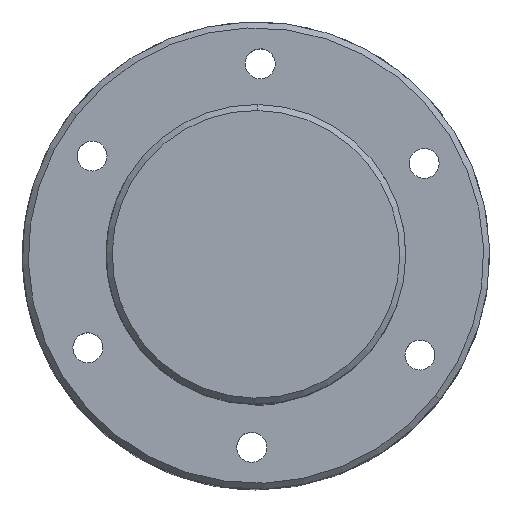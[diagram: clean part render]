
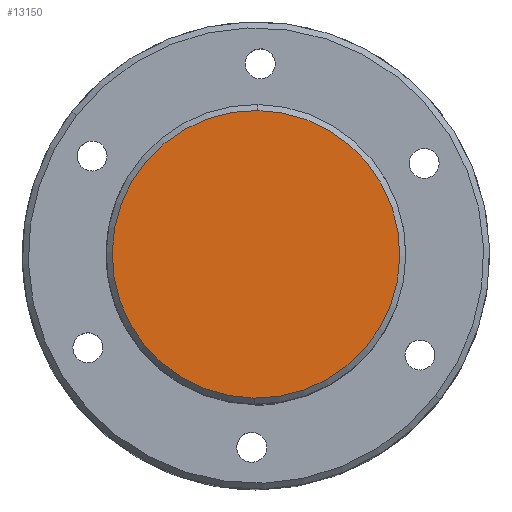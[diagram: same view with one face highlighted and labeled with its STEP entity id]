
A CAD part, top view. The second image highlights one B-rep face of the part: STEP entity #13150.
In plain terms, the highlighted planar face has unit normal (0, 0, 1) as drawn and (-1, 0, 0) by its records, which use the part's own axes.
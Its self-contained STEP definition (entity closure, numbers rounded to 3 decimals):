
#88 = CARTESIAN_POINT ( 'NONE',  ( 0., 0., -24. ) ) ;
#2664 = DIRECTION ( 'NONE',  ( -1., 0., 0. ) ) ;
#5505 = VERTEX_POINT ( 'NONE', #17267 ) ;
#8834 = DIRECTION ( 'NONE',  ( 0., 0., -1. ) ) ;
#10341 = EDGE_CURVE ( 'NONE', #15017, #5505, #20125, .T. ) ;
#12321 = FACE_OUTER_BOUND ( 'NONE', #18789, .T. ) ;
#12408 = AXIS2_PLACEMENT_3D ( 'NONE', #15570, #18972, #8834 ) ;
#13150 = ADVANCED_FACE ( 'NONE', ( #12321 ), #13873, .F. ) ;
#13274 = ORIENTED_EDGE ( 'NONE', *, *, #10341, .T. ) ;
#13873 = PLANE ( 'NONE',  #12408 ) ;
#14544 = AXIS2_PLACEMENT_3D ( 'NONE', #21106, #18006, #19570 ) ;
#15017 = VERTEX_POINT ( 'NONE', #88 ) ;
#15570 = CARTESIAN_POINT ( 'NONE',  ( 0., 0., 0. ) ) ;
#16327 = CARTESIAN_POINT ( 'NONE',  ( 0., 0., 0. ) ) ;
#17038 = AXIS2_PLACEMENT_3D ( 'NONE', #16327, #2664, #17809 ) ;
#17267 = CARTESIAN_POINT ( 'NONE',  ( 0., 0., 24. ) ) ;
#17280 = EDGE_CURVE ( 'NONE', #5505, #15017, #19179, .T. ) ;
#17809 = DIRECTION ( 'NONE',  ( 0., 0., -1. ) ) ;
#18006 = DIRECTION ( 'NONE',  ( -1., 0., 0. ) ) ;
#18653 = ORIENTED_EDGE ( 'NONE', *, *, #17280, .T. ) ;
#18789 = EDGE_LOOP ( 'NONE', ( #13274, #18653 ) ) ;
#18972 = DIRECTION ( 'NONE',  ( 1., 0., 0. ) ) ;
#19179 = CIRCLE ( 'NONE', #14544, 24. ) ;
#19570 = DIRECTION ( 'NONE',  ( 0., 0., -1. ) ) ;
#20125 = CIRCLE ( 'NONE', #17038, 24. ) ;
#21106 = CARTESIAN_POINT ( 'NONE',  ( 0., 0., 0. ) ) ;
